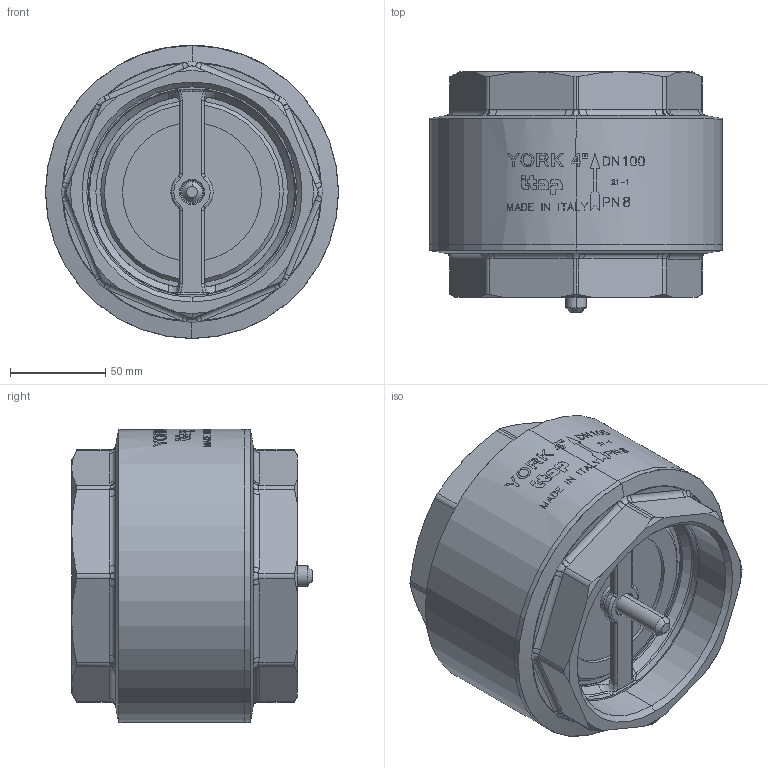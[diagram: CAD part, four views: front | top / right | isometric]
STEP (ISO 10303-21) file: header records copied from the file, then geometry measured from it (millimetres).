
FILE_DESCRIPTION (( 'STEP AP203' ), '1' );
FILE_NAME ('1030400.step', '2020-09-01T13:17:59', ( '' ), ( '' ), 'SwSTEP 2.0', 'SolidWorks 2018', '' );
FILE_SCHEMA (( 'CONFIG_CONTROL_DESIGN' ));
Length unit declared in the file: millimetre
Products named in the file (1): 1030400
Bounding box: 154 x 126.47 x 154 mm (x, y, z)
Surface area: 158045.4 mm2 (no closed solid volume)
Topology: 0 solids, 10 shells, 393 faces, 1507 edges, 1160 vertices
Faces by surface type: bspline 130, cylinder 118, plane 54, cone 48, torus 43
Entity records: 28625 total; most frequent: CARTESIAN_POINT 17246, ORIENTED_EDGE 2916, DIRECTION 1682, EDGE_CURVE 1507, VERTEX_POINT 1160, B_SPLINE_CURVE_WITH_KNOTS 794, AXIS2_PLACEMENT_3D 713, CIRCLE 449
